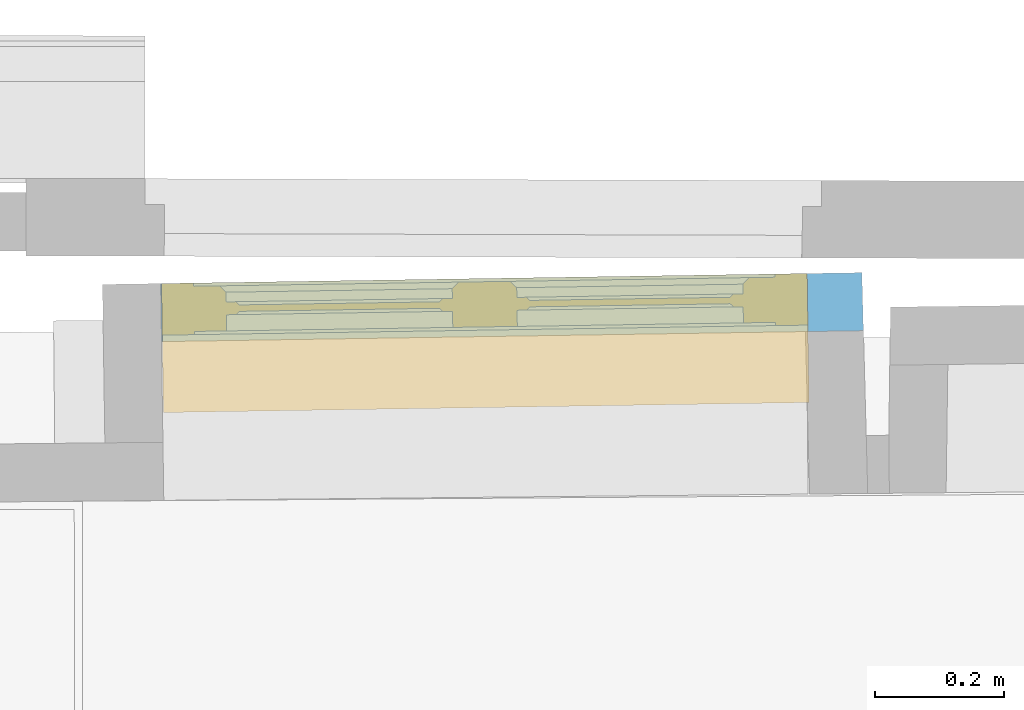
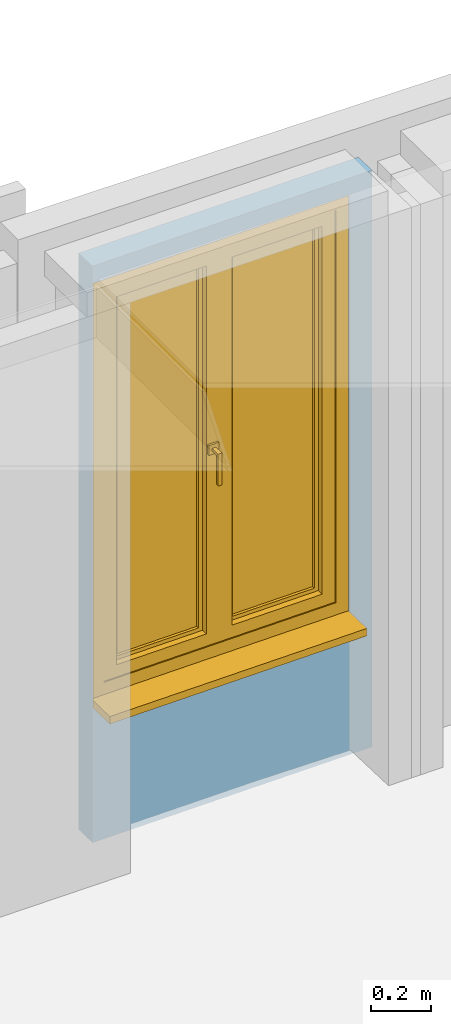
# One storey, part 63 of 72: 1 window, 1 opening, plus 1 element that does not belong to this part.
"""IFC2X3 building model written with IfcOpenShell, lengths in centimetres."""

from ifc_helpers import new_model, entity, si_unit, converted_unit, direction, frame, origin, origin_with_axes, place, context, subcontext, project, spatial, polyline, outline, extrude, faceted_brep, shape, material, material_list, layer, layer_set, layer_usage, type_object, element, fill, save


model = new_model("IFC2X3")

# Units and contexts
model_context = context("Model", 3, precision=0.0001, world=origin(), true_north=direction((0.225632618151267, 0.974212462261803, 0.0)))
body_context = subcontext(model_context, "Body", "Model", "MODEL_VIEW")
footprint_context = subcontext(model_context, "FootPrint", "Model", "MODEL_VIEW")
profile_context = subcontext(model_context, "Profile", "Model", "MODEL_VIEW")
ifc_project = project(units=[si_unit("LENGTHUNIT", "METRE", prefix="CENTI"), si_unit("AREAUNIT", "SQUARE_METRE", prefix="CENTI"), si_unit("VOLUMEUNIT", "CUBIC_METRE", prefix="CENTI"), converted_unit("PLANEANGLEUNIT", "DEGREE", entity("IfcRatioMeasure", 0.0174532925), si_unit("PLANEANGLEUNIT", "RADIAN"), dimensions=[0, 0, 0, 0, 0, 0, 0])], contexts=[model_context])

# Site, building, storey
site_placement = place(None, origin_with_axes())
site = spatial("IfcSite", under=ifc_project, at=site_placement, Name="Default Site", CompositionType="ELEMENT")
building_placement = place(site_placement, origin_with_axes())
building = spatial("IfcBuilding", under=site, at=building_placement, Name="Default Building", CompositionType="ELEMENT")
storey_placement = place(building_placement, frame((0.0, 0.0, 853.910374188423), z_axis=(0.0, 0.0, 1.0), x_axis=(1.0, 0.0, 0.0)))
storey = spatial("IfcBuildingStorey", under=building, at=storey_placement, Name="Niveau 2", CompositionType="ELEMENT", Elevation=853.910374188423)

# Wall, opening, window
ifc_material_1 = material(Name="<aucun>")
ifc_layer = layer(ifc_material_1, 9.0)
ifc_layer_set = layer_set([ifc_layer], Name="default")
ifc_layer_usage = layer_usage(ifc_layer_set, "AXIS2", "POSITIVE", -4.5)
wall_type = type_object("IfcWallType", Name="default 90", PredefinedType="NOTDEFINED", material=ifc_layer_set)
wall_placement = place(storey_placement, frame((574.834266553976, 739.650122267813, 1.06581410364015e-12), z_axis=(0.0, 0.0, 1.0), x_axis=(0.999878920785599, 0.0155609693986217, 0.0)))
wall = element("IfcWallStandardCase", 1, at=wall_placement, inside=storey, type_object=wall_type, material=ifc_layer_usage, Name="Enveloppe 177736", context=body_context, shape_type="SweptSolid", body=[
    extrude(outline(polyline([(3.03935795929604, 4.49999999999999), (3.03373275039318, -4.49999999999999), (111.848515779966, -4.49999999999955), (111.750096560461, 4.50000000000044), (3.03935795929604, 4.49999999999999)])), frame((0.0, 0.0, -1.77635683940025e-13), z_axis=(0.0, 0.0, 1.0), x_axis=(1.0, 0.0, 0.0)), (0.0, 0.0, 1.0), 234.999999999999),
])
opening_placement = place(wall_placement, frame((3.17476420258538, 1.13686837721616e-13, 57.9999999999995), z_axis=(0.0, 0.0, 1.0), x_axis=(-1.0, -4.82079653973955e-15, 0.0)))
cartesian_point_1 = entity("IfcCartesianPoint", [0.0, 0.0, 170.0])
cartesian_point_2 = entity("IfcCartesianPoint", [-100.091748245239, -4.4999999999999])
opening = element("IfcOpeningElement", 2, at=opening_placement, cuts=wall, Name="4294966527_11", ObjectType="Opening", shapes=[
    shape(body_context, "Body", "SweptSolid", [extrude(outline(polyline([(0.0, 170.0), (0.0, -2.99999999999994), (100.091748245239, -2.99999999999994), (100.091748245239, 170.0), (0.0, 170.0)])), frame((0.0, -14.5, 0.0), z_axis=(0.0, 1.0, 0.0), x_axis=(-1.0, 0.0, 0.0)), (0.0, 0.0, 1.0), 29.0)]),
    shape(profile_context, "Profile", "GeometricCurveSet", [entity("IfcGeometricCurveSet", [entity("IfcPolyline", [cartesian_point_1, entity("IfcCartesianPoint", [0.0, 0.0, 0.0]), entity("IfcCartesianPoint", [-100.091748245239, 8.88178419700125e-14, 0.0]), entity("IfcCartesianPoint", [-100.091748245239, 8.88178419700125e-14, 170.0]), cartesian_point_1])])]),
    shape(footprint_context, "FootPrint", "GeometricCurveSet", [entity("IfcGeometricCurveSet", [entity("IfcPolyline", [cartesian_point_2, entity("IfcCartesianPoint", [0.0, -4.4999999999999]), entity("IfcCartesianPoint", [8.88178419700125e-14, 4.49999999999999]), entity("IfcCartesianPoint", [-100.091748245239, 4.49999999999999]), cartesian_point_2])])]),
])
ifc_material_2 = material(Name="Transparent")
ifc_material_3 = material(Name="Jaune 255-255-0")
ifc_material_4 = material(Name="Brèche oniciata")
ifc_material_5 = material(Name="Aluminium satiné")
ifc_material_list = material_list([ifc_material_2, ifc_material_3, ifc_material_4, ifc_material_5])
window_style = type_object("IfcWindowStyle", Name="FN[R] 2VB[1V] MM", ConstructionType="NOTDEFINED", OperationType="DOUBLE_PANEL_VERTICAL", ParameterTakesPrecedence=True, Sizeable=False, material=ifc_material_list)
window_placement = place(opening_placement, frame((-100.09174824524, -4.49999999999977, 1.4210854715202e-14), z_axis=(0.0, 0.0, 1.0), x_axis=(1.0, 0.0, 0.0)))
window = element("IfcWindow", 3, at=window_placement, inside=storey, type_object=window_style, material=ifc_material_list, Name="Fenêtre 178609", OverallHeight=170.0, OverallWidth=100.091748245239, context=body_context, shape_type="Brep", body=[
    faceted_brep([(1.53817970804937e-05, 2.11366518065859e-05, -3.10182574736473e-05), (100.091765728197, -1.03215135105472e-05, -3.10182574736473e-05), (100.09176750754, 8.99999789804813, -3.10182574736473e-05), (100.091753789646, 20.0000081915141, -3.10182574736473e-05), (2.7012407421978e-06, 19.9999919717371, -3.10182574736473e-05), (1.64191353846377e-05, 8.99998167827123, -3.10182574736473e-05), (1.64191353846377e-05, 8.99998167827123, -3.00000431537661), (2.7012407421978e-06, 19.9999919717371, -3.00000431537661), (100.091753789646, 20.0000081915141, -3.00000431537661), (100.09176750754, 8.99999789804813, -3.00000431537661), (100.091765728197, -1.03215135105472e-05, -3.00000431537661), (1.53817970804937e-05, 2.11366518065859e-05, -3.00000431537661), (1.64195035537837e-05, 19.9999919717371, -3.10182574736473e-05), (1.64195035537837e-05, 19.9999919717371, -3.00000431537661), (100.091753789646, 19.999991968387, -3.10182574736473e-05), (100.091753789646, 19.999991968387, -3.00000431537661), (100.091753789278, 8.99999789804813, -3.10182574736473e-05), (100.091753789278, 8.99999789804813, -3.00000431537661), (100.091767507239, -1.03215135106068e-05, -3.10182574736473e-05), (100.091767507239, -1.03215135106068e-05, -3.00000431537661), (1.53817970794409e-05, -1.03181634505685e-05, -3.10182574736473e-05), (1.53817970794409e-05, -1.03181634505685e-05, -3.00000431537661), (1.53820983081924e-05, 8.99998167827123, -3.10182574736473e-05), (1.53820983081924e-05, 8.99998167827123, -3.00000431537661)], [[[0, 1, 2, 3, 4, 5]], [[6, 7, 8, 9, 10, 11]], [[5, 12, 13, 6]], [[4, 14, 15, 7]], [[3, 16, 17, 8]], [[2, 18, 19, 9]], [[1, 20, 21, 10]], [[0, 22, 23, 11]]]),
    faceted_brep([(5.00000059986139, 7.99999991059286, 164.999997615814), (5.00000059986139, 8.94067937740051e-08, 164.999997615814), (5.00000059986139, 8.94067937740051e-08, 5.00000007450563), (5.00000059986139, 7.99999991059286, 5.00000007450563), (2.38800074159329e-06, 8.94067944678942e-08, 170.000004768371), (2.38800074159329e-06, 8.94067944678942e-08, 0.0), (2.38800074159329e-06, 8.94067937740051e-08, 170.000004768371), (2.38800074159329e-06, 7.99999991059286, 170.000004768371), (2.38800074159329e-06, 7.99999991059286, 0.0), (2.38800074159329e-06, 8.94067937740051e-08, 0.0), (95.0917476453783, 8.94067937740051e-08, 5.00000007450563), (95.0917476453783, 7.99999991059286, 5.00000007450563), (2.38800074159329e-06, 8.94067944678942e-08, 9.70908840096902e-33), (100.091745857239, 8.94067819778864e-08, -1.65054550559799e-31), (95.0917476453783, 8.94067825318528e-08, 5.00000007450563), (100.091745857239, 7.99999991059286, 0.0), (100.091745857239, 8.94067937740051e-08, 0.0), (95.0917476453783, 7.99999991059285, 5.00000007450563), (100.091745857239, 7.99999991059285, -1.9416206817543e-31), (95.0917476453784, 8.94067937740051e-08, 164.999997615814), (95.0917476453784, 7.99999991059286, 164.999997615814), (100.091745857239, 8.94067930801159e-08, 0.0), (100.091745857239, 8.94067930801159e-08, 170.000004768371), (95.0917476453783, 8.94067937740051e-08, 164.999997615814), (100.091745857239, 7.99999991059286, 170.000004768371), (100.091745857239, 8.94067937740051e-08, 170.000004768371), (95.0917476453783, 7.99999991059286, 164.999997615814), (100.091745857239, 8.94067930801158e-08, 170.000004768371), (2.38800074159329e-06, 8.94068055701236e-08, 170.000004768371), (5.00000059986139, 8.94068050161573e-08, 164.999997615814), (5.00000059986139, 7.99999991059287, 164.999997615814), (2.38800074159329e-06, 7.99999991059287, 170.000004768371)], [[[0, 1, 2, 3]], [[1, 4, 5, 2]], [[6, 7, 8, 9]], [[7, 0, 3, 8]], [[3, 2, 10, 11]], [[2, 12, 13, 14]], [[9, 8, 15, 16]], [[8, 3, 17, 18]], [[11, 10, 19, 20]], [[10, 21, 22, 23]], [[16, 15, 24, 25]], [[15, 11, 26, 24]], [[26, 23, 1, 0]], [[23, 27, 28, 29]], [[25, 24, 7, 6]], [[24, 26, 30, 31]]]),
    faceted_brep([(9.99999881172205, 7.50000001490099, 160.000002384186), (9.99999881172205, 1.49999996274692, 160.000002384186), (9.99999881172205, 1.49999996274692, 10.0000001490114), (9.99999881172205, 7.50000001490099, 10.0000001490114), (8.99999929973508, 0.500000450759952, 161.000001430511), (8.99999929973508, 0.500000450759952, 9.00000035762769), (8.99999976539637, 0.499999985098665, 161.000001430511), (5.00000059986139, 0.499999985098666, 164.999997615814), (5.00000059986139, 0.499999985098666, 5.00000007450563), (8.99999976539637, 0.499999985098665, 9.00000035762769), (5.00000059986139, 0.499999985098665, 164.999997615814), (5.00000059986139, 7.50000001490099, 164.999997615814), (5.00000059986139, 7.50000001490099, 5.00000007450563), (5.00000059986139, 0.499999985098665, 5.00000007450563), (45.0458740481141, 1.49999996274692, 10.0000001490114), (45.0458740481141, 7.50000001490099, 10.0000001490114), (8.99999976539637, 0.500000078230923, 9.00000026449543), (46.0458742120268, 0.500000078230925, 9.00000026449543), (50.0458741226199, 0.499999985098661, 5.00000007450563), (46.0458742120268, 0.499999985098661, 9.00000035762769), (50.0458741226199, 7.50000001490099, 5.00000007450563), (50.0458741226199, 0.499999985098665, 5.00000007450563), (45.0458740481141, 7.50000001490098, 10.0000001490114), (50.0458741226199, 7.50000001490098, 5.00000007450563), (45.0458740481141, 1.49999996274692, 160.000002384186), (45.0458740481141, 7.50000001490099, 160.000002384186), (46.0458741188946, 0.49999989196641, 9.00000035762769), (46.0458741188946, 0.499999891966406, 161.000001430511), (45.0458740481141, 1.49999996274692, 160.000002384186), (46.0458742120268, 0.499999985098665, 9.00000035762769), (50.0458741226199, 0.499999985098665, 164.999997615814), (46.0458742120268, 0.499999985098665, 161.000001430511), (50.0458741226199, 7.50000001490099, 164.999997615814), (45.0458740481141, 7.50000001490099, 160.000002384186), (46.0458742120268, 0.500000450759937, 161.000001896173), (8.99999976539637, 0.500000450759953, 161.000001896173), (5.00000059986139, 0.49999998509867, 164.999997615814), (8.99999976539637, 0.49999998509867, 161.000001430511)], [[[0, 1, 2, 3]], [[1, 4, 5, 2]], [[6, 7, 8, 9]], [[10, 11, 12, 13]], [[11, 0, 3, 12]], [[3, 2, 14, 15]], [[2, 16, 17, 14]], [[9, 8, 18, 19]], [[13, 12, 20, 21]], [[12, 3, 22, 23]], [[15, 14, 24, 25]], [[14, 26, 27, 28]], [[29, 21, 30, 31]], [[21, 20, 32, 30]], [[20, 15, 33, 32]], [[33, 28, 1, 0]], [[28, 34, 35, 1]], [[31, 30, 36, 37]], [[30, 32, 11, 10]], [[32, 33, 0, 11]]]),
    faceted_brep([(11.5000003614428, 4.99999997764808, 158.500003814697), (12.0000001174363, 4.5000002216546, 158.000004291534), (12.0000001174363, 4.5000002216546, 11.9999997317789), (11.5000003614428, 4.99999997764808, 11.5000002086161), (11.9999998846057, 4.49999998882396, 158.000004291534), (11.9999998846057, 3.5000000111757, 158.000004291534), (11.9999998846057, 3.5000000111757, 11.9999997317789), (11.9999998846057, 4.49999998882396, 11.9999997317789), (11.5000001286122, 3.00000025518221, 158.500003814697), (11.5000001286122, 3.00000025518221, 11.5000002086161), (11.5000003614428, 3.00000002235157, 158.500003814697), (9.99999881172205, 3.00000002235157, 160.000002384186), (9.99999881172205, 3.00000002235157, 10.0000001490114), (11.5000003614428, 3.00000002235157, 11.5000002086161), (9.99999881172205, 4.99999997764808, 160.000002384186), (9.99999881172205, 4.99999997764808, 10.0000001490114), (11.9999998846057, 4.5000002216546, 11.9999999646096), (43.0458740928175, 4.5000002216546, 11.9999999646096), (43.5458743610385, 4.99999997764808, 11.5000002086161), (43.0458740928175, 3.5000000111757, 11.9999997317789), (43.0458740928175, 4.49999998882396, 11.9999997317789), (11.5000003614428, 3.00000025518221, 11.4999999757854), (43.5458743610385, 3.00000025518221, 11.4999999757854), (43.0458740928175, 3.50000001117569, 11.9999997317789), (45.0458740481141, 3.00000002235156, 10.0000001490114), (43.5458743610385, 3.00000002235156, 11.5000002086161), (45.0458740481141, 4.99999997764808, 10.0000001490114), (45.0458740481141, 3.00000002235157, 10.0000001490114), (43.0458742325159, 4.49999984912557, 11.9999997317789), (43.0458742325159, 4.49999984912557, 158.000004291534), (43.5458743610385, 4.99999997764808, 158.500003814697), (43.0458740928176, 3.5000000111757, 158.000004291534), (43.0458740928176, 4.49999998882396, 158.000004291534), (43.5458742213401, 2.99999988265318, 11.5000002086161), (43.5458742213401, 2.9999998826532, 158.500003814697), (43.0458740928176, 3.50000001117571, 158.000004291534), (43.5458743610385, 3.00000002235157, 11.5000002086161), (45.0458740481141, 3.00000002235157, 160.000002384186), (43.5458743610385, 3.00000002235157, 158.500003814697), (45.0458740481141, 4.99999997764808, 160.000002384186), (43.5458743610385, 4.99999997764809, 11.5000002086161), (43.5458743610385, 4.99999997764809, 158.500003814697), (43.0458740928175, 4.50000022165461, 158.000004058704), (11.9999998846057, 4.50000022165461, 158.000004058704), (43.0458740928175, 4.49999998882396, 158.000004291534), (43.0458740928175, 3.5000000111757, 158.000004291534), (43.5458743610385, 3.00000025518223, 158.500004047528), (11.5000003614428, 3.00000025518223, 158.500004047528), (11.5000003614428, 4.99999997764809, 158.500003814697), (9.99999881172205, 4.99999997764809, 160.000002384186)], [[[0, 1, 2, 3]], [[4, 5, 6, 7]], [[5, 8, 9, 6]], [[10, 11, 12, 13]], [[11, 14, 15, 12]], [[14, 0, 3, 15]], [[3, 16, 17, 18]], [[7, 6, 19, 20]], [[6, 21, 22, 23]], [[13, 12, 24, 25]], [[12, 15, 26, 27]], [[15, 3, 18, 26]], [[18, 28, 29, 30]], [[20, 19, 31, 32]], [[19, 33, 34, 35]], [[36, 27, 37, 38]], [[27, 26, 39, 37]], [[26, 40, 41, 39]], [[30, 42, 43, 0]], [[44, 45, 5, 4]], [[45, 46, 47, 5]], [[38, 37, 11, 10]], [[37, 39, 14, 11]], [[39, 41, 48, 49]]]),
    faceted_brep([(43.0458740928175, 4.49999998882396, 158.000004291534), (43.0458740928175, 4.49999998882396, 11.9999997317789), (11.9999998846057, 4.49999998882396, 11.9999997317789), (11.9999998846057, 4.49999998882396, 158.000004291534), (11.9999998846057, 3.5000000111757, 158.000004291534), (11.9999998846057, 3.5000000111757, 11.9999997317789), (43.0458740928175, 3.50000001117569, 11.9999997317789), (43.0458740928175, 3.50000001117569, 158.000004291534), (43.0458740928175, 3.5000000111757, 11.9999997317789), (43.0458740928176, 4.49999998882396, 158.000004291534), (43.0458740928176, 3.5000000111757, 158.000004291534), (43.0458740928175, 3.5000000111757, 158.000004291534)], [[[0, 1, 2, 3]], [[4, 5, 6, 7]], [[3, 2, 5, 4]], [[2, 1, 8, 5]], [[1, 9, 10, 8]], [[0, 3, 4, 11]]]),
    faceted_brep([(55.0458741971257, 7.50000001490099, 160.000002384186), (55.0458741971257, 1.49999996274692, 160.000002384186), (55.0458741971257, 1.49999996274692, 10.0000001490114), (55.0458741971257, 7.50000001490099, 10.0000001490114), (54.0458741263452, 0.49999989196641, 161.000001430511), (54.0458741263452, 0.499999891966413, 9.00000035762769), (55.0458741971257, 1.49999996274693, 10.0000001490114), (54.0458740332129, 0.499999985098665, 161.000001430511), (50.0458741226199, 0.499999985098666, 164.999997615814), (50.0458741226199, 0.499999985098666, 5.00000007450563), (54.0458740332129, 0.499999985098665, 9.00000035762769), (50.0458741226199, 0.499999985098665, 164.999997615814), (50.0458741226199, 7.50000001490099, 164.999997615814), (50.0458741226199, 7.50000001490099, 5.00000007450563), (50.0458741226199, 0.499999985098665, 5.00000007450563), (90.0917494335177, 1.49999996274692, 10.0000001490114), (90.0917494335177, 7.50000001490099, 10.0000001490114), (54.0458740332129, 0.500000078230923, 9.00000026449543), (91.0917484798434, 0.500000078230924, 9.00000026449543), (95.0917476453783, 0.499999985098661, 5.00000007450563), (91.0917484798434, 0.499999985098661, 9.00000035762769), (95.0917476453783, 7.50000001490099, 5.00000007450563), (95.0917476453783, 0.499999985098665, 5.00000007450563), (90.0917494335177, 7.50000001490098, 10.0000001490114), (95.0917476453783, 7.50000001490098, 5.00000007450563), (90.0917494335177, 1.49999996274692, 160.000002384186), (90.0917494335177, 7.50000001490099, 160.000002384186), (91.0917489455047, 0.50000045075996, 9.00000035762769), (91.0917489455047, 0.500000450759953, 161.000001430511), (91.0917484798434, 0.499999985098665, 9.00000035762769), (95.0917476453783, 0.499999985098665, 164.999997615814), (91.0917484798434, 0.499999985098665, 161.000001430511), (95.0917476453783, 7.50000001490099, 164.999997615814), (91.0917484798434, 0.500000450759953, 161.000001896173), (54.0458740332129, 0.500000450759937, 161.000001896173), (55.0458741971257, 1.49999996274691, 160.000002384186), (50.0458741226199, 0.49999998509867, 164.999997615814), (54.0458740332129, 0.49999998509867, 161.000001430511)], [[[0, 1, 2, 3]], [[1, 4, 5, 6]], [[7, 8, 9, 10]], [[11, 12, 13, 14]], [[12, 0, 3, 13]], [[3, 2, 15, 16]], [[2, 17, 18, 15]], [[10, 9, 19, 20]], [[14, 13, 21, 22]], [[13, 3, 23, 24]], [[16, 15, 25, 26]], [[15, 27, 28, 25]], [[29, 22, 30, 31]], [[22, 21, 32, 30]], [[21, 16, 26, 32]], [[26, 25, 1, 0]], [[25, 33, 34, 35]], [[31, 30, 36, 37]], [[30, 32, 12, 11]], [[32, 26, 0, 12]]]),
    faceted_brep([(50.545874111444, 7.50000001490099, 87.000000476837), (50.545874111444, 7.50000001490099, 82.9999983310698), (54.5458743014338, 7.50000001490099, 82.9999983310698), (54.5458743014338, 7.50000001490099, 87.000000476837), (54.5458743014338, 8.30000014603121, 87.000000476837), (54.5458743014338, 8.30000014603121, 82.9999983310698), (50.545874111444, 8.30000014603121, 82.9999983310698), (50.545874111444, 8.30000014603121, 87.000000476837)], [[[0, 1, 2, 3]], [[4, 5, 6, 7]], [[3, 2, 5, 4]], [[2, 1, 6, 5]], [[1, 0, 7, 6]], [[0, 3, 4, 7]]]),
    faceted_brep([(51.7958741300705, 8.30000014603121, 85.5000019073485), (51.7958741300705, 8.30000014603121, 84.5000028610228), (53.2958740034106, 8.3000001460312, 84.5000028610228), (53.2958740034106, 8.3000001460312, 85.5000019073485), (53.2958740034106, 12.2999996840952, 85.5000019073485), (53.2958740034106, 11.3000002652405, 84.5000024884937), (51.7958741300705, 11.3000002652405, 84.5000024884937), (51.7958741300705, 12.2999996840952, 85.5000019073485), (53.2958740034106, 8.30000014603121, 85.5000019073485), (53.2958740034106, 8.30000014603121, 84.5000028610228), (53.2958740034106, 11.2999998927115, 84.5000028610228), (51.7958741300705, 11.2999998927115, 84.5000028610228)], [[[0, 1, 2, 3]], [[4, 5, 6, 7]], [[8, 9, 10, 4]], [[9, 1, 11, 10]], [[1, 0, 7, 11]], [[0, 8, 4, 7]]]),
    faceted_brep([(51.7958741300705, 12.2999996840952, 85.5000019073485), (51.7958741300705, 11.3000002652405, 84.5000024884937), (53.2958740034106, 11.3000002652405, 84.5000024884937), (53.2958740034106, 12.2999996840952, 85.5000019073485), (53.2958740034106, 12.2999996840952, 72.5000023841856), (53.2958740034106, 11.2999998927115, 72.5000023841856), (51.7958741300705, 11.2999998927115, 72.5000023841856), (51.7958741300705, 12.2999996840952, 72.5000023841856), (53.2958740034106, 11.2999998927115, 84.5000028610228), (51.7958741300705, 11.2999998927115, 84.5000028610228)], [[[0, 1, 2, 3]], [[4, 5, 6, 7]], [[3, 8, 5, 4]], [[8, 9, 6, 5]], [[9, 0, 7, 6]], [[0, 3, 4, 7]]]),
    faceted_brep([(56.5458738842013, 4.99999997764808, 158.500003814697), (57.0458740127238, 4.49999984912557, 158.000004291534), (57.0458740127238, 4.49999984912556, 11.9999997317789), (56.5458738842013, 4.99999997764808, 11.5000002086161), (57.0458741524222, 4.49999998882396, 158.000004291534), (57.0458741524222, 3.5000000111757, 158.000004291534), (57.0458741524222, 3.5000000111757, 11.9999997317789), (57.0458741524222, 4.49999998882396, 11.9999997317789), (56.5458740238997, 2.99999988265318, 158.500003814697), (56.5458740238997, 2.99999988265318, 11.5000002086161), (56.5458738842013, 3.00000002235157, 158.500003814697), (55.0458741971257, 3.00000002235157, 160.000002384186), (55.0458741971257, 3.00000002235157, 10.0000001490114), (56.5458738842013, 3.00000002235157, 11.5000002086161), (55.0458741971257, 4.99999997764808, 160.000002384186), (55.0458741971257, 4.99999997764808, 10.0000001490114), (57.0458741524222, 4.5000002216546, 11.9999999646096), (88.0917483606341, 4.5000002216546, 11.9999999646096), (88.5917478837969, 4.99999997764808, 11.5000002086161), (88.0917483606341, 3.5000000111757, 11.9999997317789), (88.0917483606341, 4.49999998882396, 11.9999997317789), (56.5458738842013, 3.00000025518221, 11.4999999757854), (88.5917478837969, 3.00000025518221, 11.4999999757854), (88.0917483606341, 3.50000001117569, 11.9999997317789), (90.0917494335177, 3.00000002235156, 10.0000001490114), (88.5917478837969, 3.00000002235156, 11.5000002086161), (90.0917494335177, 4.99999997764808, 10.0000001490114), (90.0917494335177, 3.00000002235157, 10.0000001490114), (88.0917481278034, 4.5000002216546, 11.9999997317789), (88.0917481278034, 4.50000022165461, 158.000004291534), (88.5917478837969, 4.99999997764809, 158.500003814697), (88.0917483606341, 3.5000000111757, 158.000004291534), (88.0917483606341, 4.49999998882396, 158.000004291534), (88.5917481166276, 3.00000025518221, 11.5000002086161), (88.5917481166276, 3.00000025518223, 158.500003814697), (88.0917483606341, 3.50000001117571, 158.000004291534), (88.5917478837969, 3.00000002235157, 11.5000002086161), (90.0917494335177, 3.00000002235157, 160.000002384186), (88.5917478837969, 3.00000002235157, 158.500003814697), (90.0917494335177, 4.99999997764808, 160.000002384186), (88.5917478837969, 4.99999997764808, 158.500003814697), (88.0917483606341, 4.50000022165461, 158.000004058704), (57.0458741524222, 4.50000022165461, 158.000004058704), (88.5917478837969, 3.00000025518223, 158.500004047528), (56.5458738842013, 3.00000025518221, 158.500004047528), (57.0458741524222, 3.50000001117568, 158.000004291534), (56.5458738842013, 4.99999997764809, 158.500003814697), (55.0458741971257, 4.99999997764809, 160.000002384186)], [[[0, 1, 2, 3]], [[4, 5, 6, 7]], [[5, 8, 9, 6]], [[10, 11, 12, 13]], [[11, 14, 15, 12]], [[14, 0, 3, 15]], [[3, 16, 17, 18]], [[7, 6, 19, 20]], [[6, 21, 22, 23]], [[13, 12, 24, 25]], [[12, 15, 26, 27]], [[15, 3, 18, 26]], [[18, 28, 29, 30]], [[20, 19, 31, 32]], [[19, 33, 34, 35]], [[36, 27, 37, 38]], [[27, 26, 39, 37]], [[26, 18, 40, 39]], [[40, 41, 42, 0]], [[32, 31, 5, 4]], [[31, 43, 44, 45]], [[38, 37, 11, 10]], [[37, 39, 14, 11]], [[39, 40, 46, 47]]]),
    faceted_brep([(88.0917483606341, 4.49999998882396, 158.000004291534), (88.0917483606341, 4.49999998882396, 11.9999997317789), (57.0458741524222, 4.49999998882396, 11.9999997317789), (57.0458741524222, 4.49999998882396, 158.000004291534), (57.0458741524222, 3.5000000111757, 158.000004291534), (57.0458741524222, 3.5000000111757, 11.9999997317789), (88.0917483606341, 3.50000001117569, 11.9999997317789), (88.0917483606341, 3.50000001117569, 158.000004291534), (88.0917483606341, 3.5000000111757, 11.9999997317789), (88.0917483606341, 3.5000000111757, 158.000004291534)], [[[0, 1, 2, 3]], [[4, 5, 6, 7]], [[3, 2, 5, 4]], [[2, 1, 8, 5]], [[1, 0, 9, 8]], [[0, 3, 4, 9]]]),
])
fill(opening, window)

save(model, "model.ifc")
